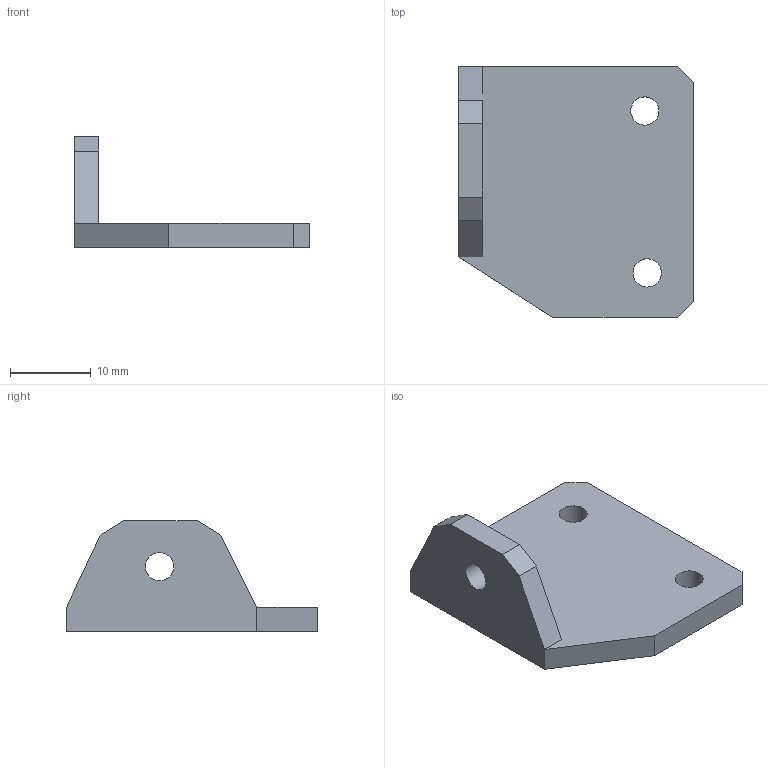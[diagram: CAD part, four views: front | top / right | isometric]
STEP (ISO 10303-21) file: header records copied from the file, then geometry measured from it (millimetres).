
FILE_DESCRIPTION(/* description */ (''),/* implementation_level */ '2;1');
FILE_NAME(/* name */ 'D:\3D печать\Мои проекты\Archy MK 2\STEP\MK3\крепление датчика филамента 1.stp',/* time_stamp */ '2019-08-16T22:59:47+06:00',/* author */ ('Пользователь'),/* organization */ (''),/* preprocessor_version */ 'ST-DEVELOPER v16.5',/* originating_system */ 'Autodesk Inventor 2017',/* authorisation */ '');
FILE_SCHEMA (('AUTOMOTIVE_DESIGN { 1 0 10303 214 3 1 1 }'));
Length unit declared in the file: millimetre
Products named in the file (1): крепление \X2\04340430
044204470438043A0430\X0\ филамента 
1
Bounding box: 29 x 31 x 13.7 mm (x, y, z)
Volume: 3044.6 mm3; surface area: 2502.3 mm2
Topology: 1 solids, 1 shells, 18 faces, 46 edges, 30 vertices
Faces by surface type: plane 15, cylinder 3
Full cylindrical faces by diameter (mm): 3.5 x3
Entity records: 561 total; most frequent: CARTESIAN_POINT 92, DIRECTION 87, ORIENTED_EDGE 86, EDGE_CURVE 43, LINE 37, VECTOR 37, VERTEX_POINT 30, EDGE_LOOP 27
